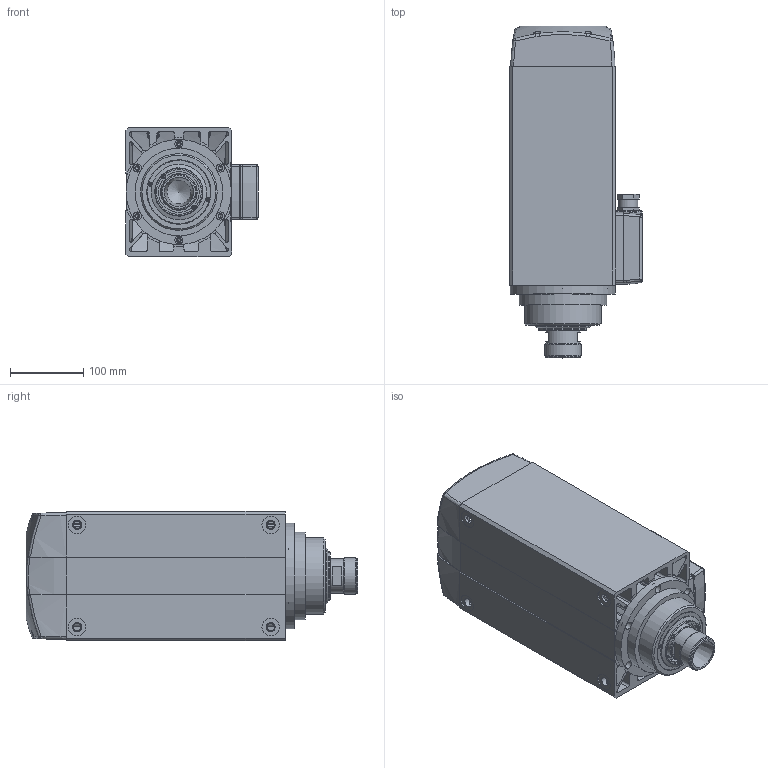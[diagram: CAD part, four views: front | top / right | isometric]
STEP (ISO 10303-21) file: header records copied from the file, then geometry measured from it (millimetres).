
FILE_DESCRIPTION( ( 'F029_A#12030_HM120X-170 P-00_Y616112015 3D step 3D' ), '1' );
FILE_NAME( 'C:/Users/smemoli/Desktop/y616112015.stp', 'Unknown', ( 'Unknown' ), ( 'Unknown' ), 'PSStep 14.0', 'Unknown', ' ' );
FILE_SCHEMA( ( 'AUTOMOTIVE_DESIGN { 1 0 10303 214 1 1 1 1 }' ) );
Length unit declared in the file: millimetre
Products named in the file (17): Assieme connettore 1073; Morsettiera O.Korner 3P passo12 OK434-03; Y140800010; PRESSACAVO1073; Y140800011; Assem1; Y091600088; Y080100029; Y140800005; Y080712005_tagliato; Y083700021; Y083700020; Y141900004
Assembly tree (16 placements, depth 3):
  Assem1
    Y091600088
    Y080100029
    Y140800005
    Y080712005_tagliato
    Y083700021
    Y083700020
    Y141900004
    Assieme connettore 1073
      Morsettiera O.Korner 3P passo12 OK434-03
      Y140800010
      Y140800010
      Y140800010
      Y140800010
      Y140800010
      PRESSACAVO1073
      Y140800011
Bounding box: 181 x 454.5 x 177 mm (x, y, z)
Volume: 3686334.6 mm3; surface area: 937343.9 mm2
Topology: 15 solids, 15 shells, 1198 faces, 3226 edges, 2073 vertices
Faces by surface type: plane 514, cylinder 439, bspline 102, torus 66, cone 57, sphere 20
Full cylindrical faces by diameter (mm): 2.5 x1, 2.8 x1, 3 x2, 3.2 x2, 3.3 x4, 4 x2, 4.2 x10, 4.4 x2, 4.5 x8, 5 x12, 5.1 x1, 5.5 x12, 5.6 x4, 6 x4, 6.5 x6, 7 x6, 7.5 x4, 9.5 x4, 10.2 x4, 11 x6, 12.5 x4, 15.99 x1, 16 x1, 22 x1, 22.7 x1, 24 x4, 26 x1, 32.5 x1, 47.5 x3, 48.5 x1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
Entity records: 51578 total; most frequent: CARTESIAN_POINT 16034, DIRECTION 5898, ORIENTED_EDGE 5758, EDGE_CURVE 2879, AXIS2_PLACEMENT_3D 2257, VERTEX_POINT 1977, EDGE_LOOP 1595, LINE 1384
